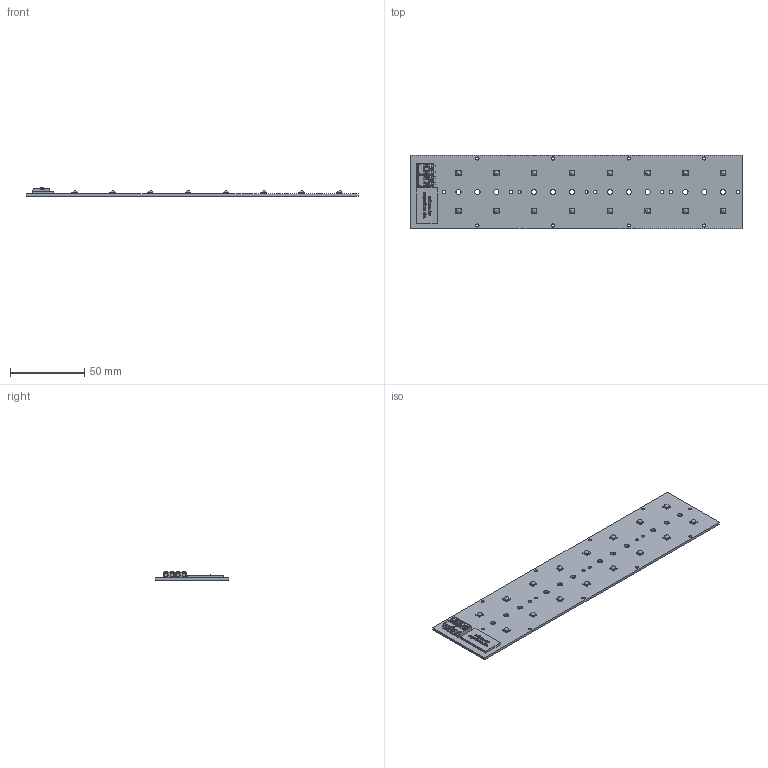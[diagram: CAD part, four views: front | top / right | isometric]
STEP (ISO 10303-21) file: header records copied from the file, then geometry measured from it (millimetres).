
FILE_DESCRIPTION(/* description */ (''),/* implementation_level */ '2;1');
FILE_NAME(/* name */ 'C:\FastFlex 2x8 DA and DAX Gen4.stp',/* time_stamp */ '2019-01-17T12:17:23+01:00',/* author */ ('nlv21627'),/* organization */ (''),/* preprocessor_version */ 'ST-DEVELOPER v16.5',/* originating_system */ 'Autodesk Inventor 2017',/* authorisation */ '');
FILE_SCHEMA (('AUTOMOTIVE_DESIGN { 1 0 10303 214 3 1 1 }'));
Length unit declared in the file: millimetre
Products named in the file (1): 4422-409-57680_simplified
Bounding box: 223 x 49.5 x 5.85 mm (x, y, z)
Volume: 18816.7 mm3; surface area: 24181 mm2
Topology: 1 solids, 65 shells, 1714 faces, 4621 edges, 3024 vertices
Faces by surface type: plane 1063, cylinder 304, bspline 199, cone 76, torus 56, sphere 16
Full cylindrical faces by diameter (mm): 0.1 x64, 2.1 x16, 3.5 x12
Entity records: 55621 total; most frequent: CARTESIAN_POINT 13779, ORIENTED_EDGE 8586, DIRECTION 7688, EDGE_CURVE 4293, LINE 3150, VECTOR 3150, VERTEX_POINT 2884, AXIS2_PLACEMENT_3D 2269
